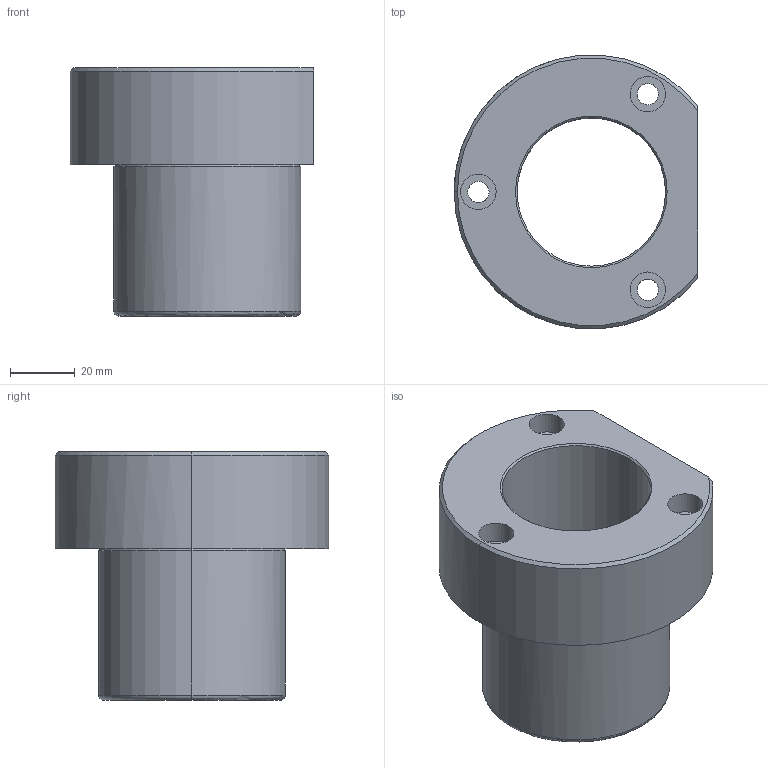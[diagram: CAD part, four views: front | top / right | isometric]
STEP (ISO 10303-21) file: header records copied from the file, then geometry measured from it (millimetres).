
FILE_DESCRIPTION(('CATIA V5 STEP Exchange'),'2;1');
FILE_NAME('C:\Users\Utente\Desktop\IO LAVORO\3D X SITO CF\X SITO\737\737-38.stp','2021-01-17T17:02:30+00:00',('none'),('none'),'CATIA Version 5 Release 20 GA (IN-10)','CATIA V5 STEP AP203','none');
FILE_SCHEMA(('CONFIG_CONTROL_DESIGN'));
Length unit declared in the file: millimetre
Products named in the file (1): 737-38
Bounding box: 75.5 x 84.8 x 77 mm (x, y, z)
Volume: 151304.3 mm3; surface area: 36802.1 mm2
Topology: 1 solids, 1 shells, 37 faces, 82 edges, 51 vertices
Faces by surface type: cylinder 18, plane 7, cone 6, torus 6
Entity records: 1268 total; most frequent: CARTESIAN_POINT 423, ORIENTED_EDGE 164, DIRECTION 141, EDGE_CURVE 82, AXIS2_PLACEMENT_3D 79, VERTEX_POINT 51, EDGE_LOOP 49, CIRCLE 41
